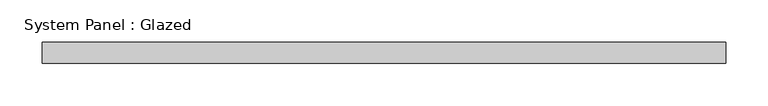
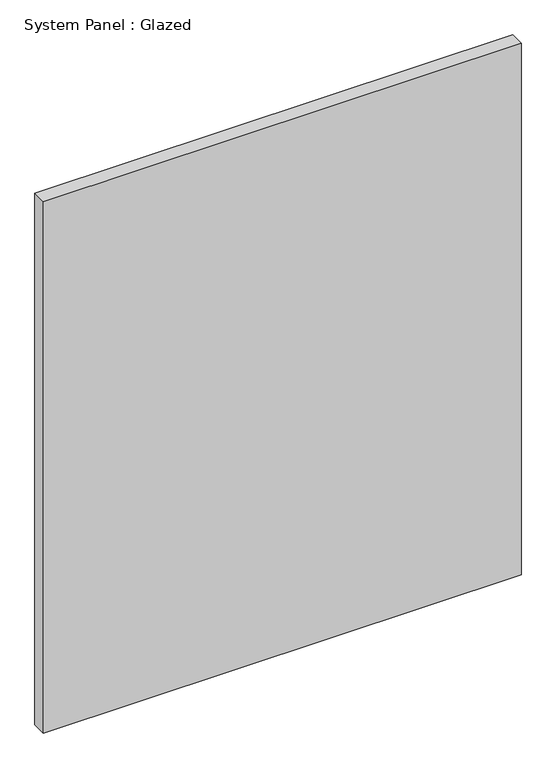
"""IFC4 building model written with IfcOpenShell, lengths in millimetres: plate geometry, System Panel : Glazed."""

import ifcopenshell
import ifcopenshell.guid

model = None  # the IFC model being written
_history = None  # IfcOwnerHistory: only IFC2X3 demands one
_inside = {}  # id of a spatial element -> (the spatial element, [elements in it])
_under = {}  # id of a project, library or spatial element -> (it, [spatial elements below it])
_declared = {}  # id of a project -> (the project, [libraries it declares])
_typed = {}  # id of a type object -> (the type object, [elements of that type])
_made_of = {}  # id of a material, layer set ... -> (it, [elements and type objects made of it])


def new_model(schema):
    """Start an empty IFC model of exactly this schema.

    Asked for "IFC4X3", IfcOpenShell would pick the latest addendum, in which some entities
    have other attributes; the version numbers below select the first issue.
    IFC2X3 requires an IfcOwnerHistory on every rooted entity: one is made here for all.
    """
    global model, _history
    if schema == "IFC4X3":
        model = ifcopenshell.file(schema_version=(4, 3, 0, 0))
    else:
        model = ifcopenshell.file(schema=schema)
    _inside.clear()
    _under.clear()
    _declared.clear()
    _typed.clear()
    _made_of.clear()
    _history = None
    if model.schema == "IFC2X3":
        org = make("IfcOrganization", Name="unknown")
        user = make(
            "IfcPersonAndOrganization",
            ThePerson=make("IfcPerson", FamilyName="unknown"),
            TheOrganization=org,
        )
        app = make(
            "IfcApplication",
            ApplicationDeveloper=org,
            Version="unknown",
            ApplicationFullName="unknown",
            ApplicationIdentifier="unknown",
        )
        _history = make(
            "IfcOwnerHistory",
            OwningUser=user,
            OwningApplication=app,
            ChangeAction="ADDED",
            CreationDate=0,
        )
    return model


def make(cls, **values):
    """One entity of the class cls with the attributes given. An attribute that is None is left unset."""
    return model.create_entity(
        cls, **{name: value for name, value in values.items() if value is not None}
    )


def rooted(cls, **values):
    """An entity with a GlobalId (a new one), such as an element, a storey or a relation."""
    return make(cls, GlobalId=ifcopenshell.guid.new(), OwnerHistory=_history, **values)


def si_unit(unit_type, name, prefix=None):
    """IfcSIUnit, for example si_unit("LENGTHUNIT", "METRE", prefix="MILLI")."""
    return make("IfcSIUnit", UnitType=unit_type, Prefix=prefix, Name=name)


def assignment(units):
    """IfcUnitAssignment: the units of a project."""
    return None if units is None else make("IfcUnitAssignment", Units=units)


def point(xyz):
    """IfcCartesianPoint."""
    return None if xyz is None else make("IfcCartesianPoint", Coordinates=xyz)


def direction(xyz):
    """IfcDirection."""
    return None if xyz is None else make("IfcDirection", DirectionRatios=xyz)


def frame(location, z_axis=None, x_axis=None):
    """IfcAxis2Placement3D, a coordinate frame: its origin and axes. An axis left out is left unset."""
    return make(
        "IfcAxis2Placement3D",
        Location=point(location),
        Axis=direction(z_axis),
        RefDirection=direction(x_axis),
    )


def origin():
    """The frame at (0, 0, 0) with its axes left unset."""
    return frame((0.0, 0.0, 0.0))


def origin_with_axes():
    """The frame at (0, 0, 0) with the z axis (0, 0, 1) and the x axis (1, 0, 0) written out."""
    return frame((0.0, 0.0, 0.0), z_axis=(0.0, 0.0, 1.0), x_axis=(1.0, 0.0, 0.0))


def place(relative_to, where):
    """IfcLocalPlacement: puts the frame where relative to a parent placement (None: the world)."""
    return make(
        "IfcLocalPlacement", PlacementRelTo=relative_to, RelativePlacement=where
    )


def context(
    kind, dimensions, precision=None, world=None, true_north=None, identifier=None
):
    """IfcGeometricRepresentationContext, for example the 3D "Model" context."""
    return make(
        "IfcGeometricRepresentationContext",
        ContextIdentifier=identifier,
        ContextType=kind,
        CoordinateSpaceDimension=dimensions,
        Precision=precision,
        WorldCoordinateSystem=world,
        TrueNorth=true_north,
    )


def project(units=None, contexts=None):
    """IfcProject with its units and contexts."""
    return rooted(
        "IfcProject",
        Name="project",
        RepresentationContexts=contexts,
        UnitsInContext=assignment(units),
    )


def spatial(cls, under=None, at=None, **own):
    """A site, building, storey or space (cls), placed at a placement, below another one or the project."""
    s = rooted(cls, ObjectPlacement=at, **own)
    if under is not None:
        _under.setdefault(under.id(), (under, []))[1].append(s)
    return s


def polyline(points):
    """IfcPolyline through the points."""
    return make("IfcPolyline", Points=[point(p) for p in points])


def outline(outer, holes=None, kind="AREA"):
    """IfcArbitraryClosedProfileDef: a profile drawn as a closed curve; with holes, ...WithVoids."""
    if holes is None:
        return make("IfcArbitraryClosedProfileDef", ProfileType=kind, OuterCurve=outer)
    return make(
        "IfcArbitraryProfileDefWithVoids",
        ProfileType=kind,
        OuterCurve=outer,
        InnerCurves=holes,
    )


def extrude(swept, where, along, depth):
    """IfcExtrudedAreaSolid: the profile swept, set in the frame where, extruded along a direction by depth."""
    return make(
        "IfcExtrudedAreaSolid",
        SweptArea=swept,
        Position=where,
        ExtrudedDirection=direction(along),
        Depth=depth,
    )


def shape(context_of_items, identifier, shape_type, items):
    """IfcShapeRepresentation: the items that make up one representation, for example the "Body"."""
    return make(
        "IfcShapeRepresentation",
        ContextOfItems=context_of_items,
        RepresentationIdentifier=identifier,
        RepresentationType=shape_type,
        Items=items,
    )


def source(mapping_origin, context_of_items, identifier, shape_type, items):
    """IfcRepresentationMap: a shape defined once, which mapped items show again and again."""
    return make(
        "IfcRepresentationMap",
        MappingOrigin=mapping_origin,
        MappedRepresentation=shape(context_of_items, identifier, shape_type, items),
    )


def transform(
    local_origin,
    x_axis=None,
    y_axis=None,
    z_axis=None,
    scale=None,
    scale2=None,
    scale3=None,
    uniform=True,
):
    """IfcCartesianTransformationOperator3D, or its non-uniform kind. x_axis, y_axis, z_axis: its Axis1, 2, 3."""
    if uniform:
        return make(
            "IfcCartesianTransformationOperator3D",
            Axis1=direction(x_axis),
            Axis2=direction(y_axis),
            LocalOrigin=point(local_origin),
            Scale=scale,
            Axis3=direction(z_axis),
        )
    return make(
        "IfcCartesianTransformationOperator3DnonUniform",
        Axis1=direction(x_axis),
        Axis2=direction(y_axis),
        LocalOrigin=point(local_origin),
        Scale=scale,
        Axis3=direction(z_axis),
        Scale2=scale2,
        Scale3=scale3,
    )


def mapped(mapping_source, mapping_target):
    """IfcMappedItem: shows the shape of a source again, moved by a transform."""
    return make(
        "IfcMappedItem", MappingSource=mapping_source, MappingTarget=mapping_target
    )


def made_of(thing, what):
    """Note that an element or type object is made of a material, layer set ...; save() writes the relation."""
    if what is not None:
        _made_of.setdefault(what.id(), (what, []))[1].append(thing)
    return thing


def element(
    cls,
    number,
    at=None,
    inside=None,
    cuts=None,
    type_object=None,
    material=None,
    context=None,
    identifier="Body",
    shape_type=None,
    held_by="IfcProductDefinitionShape",
    body=None,
    shapes=None,
    **own,
):
    """One element of the class cls, such as IfcWall. Its Tag is "e" and its number.

    at: its placement. inside: the storey or other place that contains it. cuts: it is an
    opening in that element (IfcRelVoidsElement). A single representation is given by context,
    identifier, shape_type and body (its items); several are given by shapes. held_by: the class
    of the entity that holds the representations. save() writes the other relations.
    """
    e = rooted(cls, Tag="e%d" % number, ObjectPlacement=at, **own)
    if body is not None:
        shapes = [shape(context, identifier, shape_type, body)]
    if shapes is not None:
        e.Representation = make(held_by, Representations=shapes)
    if inside is not None:
        _inside.setdefault(inside.id(), (inside, []))[1].append(e)
    if cuts is not None:
        rooted(
            "IfcRelVoidsElement", RelatingBuildingElement=cuts, RelatedOpeningElement=e
        )
    if type_object is not None:
        _typed.setdefault(type_object.id(), (type_object, []))[1].append(e)
    return made_of(e, material)


def aggregate(whole, parts):
    """IfcRelAggregates: a whole, such as a stair, and the parts it consists of."""
    return rooted("IfcRelAggregates", RelatingObject=whole, RelatedObjects=parts)


def save(model, path):
    """Write the relations noted so far, then the file.

    IfcRelAggregates (storeys below a building ...), IfcRelContainedInSpatialStructure (elements
    in a storey), IfcRelDefinesByType, IfcRelAssociatesMaterial and IfcRelDeclares: one each for
    every whole, place, type object, material and project.
    """
    for whole, parts in _under.values():
        aggregate(whole, parts)
    for where, things in _inside.values():
        rooted(
            "IfcRelContainedInSpatialStructure",
            RelatedElements=things,
            RelatingStructure=where,
        )
    for kind, things in _typed.values():
        rooted("IfcRelDefinesByType", RelatedObjects=things, RelatingType=kind)
    for what, things in _made_of.values():
        rooted("IfcRelAssociatesMaterial", RelatedObjects=things, RelatingMaterial=what)
    for by, libraries in _declared.values():
        rooted("IfcRelDeclares", RelatingContext=by, RelatedDefinitions=libraries)
    model.write(path)


def system_panel_glazed_95d26cfe(model_context):
    return source(origin(), model_context, "Body", "SweptSolid", [
        extrude(outline(polyline([(403.6974994, 24.5), (-403.6974994, 24.5), (-403.6974994, 49.5), (403.6974994, 49.5), (403.6974994, 24.5)])), origin_with_axes(), (0.0, 0.0, 1.0), 950.0),
    ])


if __name__ == "__main__":
    model = new_model("IFC4")
    model_context = context("Model", 3, world=origin())
    ifc_project = project(units=[si_unit("LENGTHUNIT", "METRE", prefix="MILLI")], contexts=[model_context])
    site = spatial("IfcSite", under=ifc_project)
    building = spatial("IfcBuilding", under=site)
    placement = place(None, origin())
    system_panel_glazed_shape = system_panel_glazed_95d26cfe(model_context)
    element("IfcPlate", 1, ObjectType="System Panel : Glazed", at=placement, inside=building, context=model_context, shape_type="MappedRepresentation", body=[
        mapped(system_panel_glazed_shape, transform((0.0, 0.0, 0.0), x_axis=(1.0, 0.0, 0.0), y_axis=(0.0, 1.0, 0.0), z_axis=(0.0, 0.0, 1.0))),
    ])
    save(model, "model.ifc")
